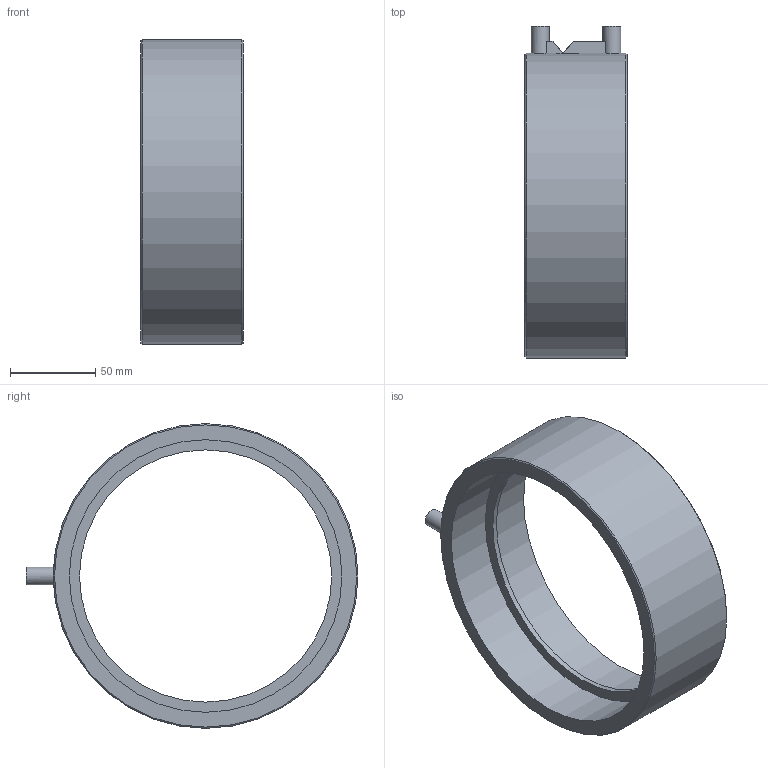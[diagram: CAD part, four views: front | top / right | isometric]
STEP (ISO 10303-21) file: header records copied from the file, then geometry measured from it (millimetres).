
FILE_DESCRIPTION(/* description */ (''),/* implementation_level */ '2;1');
FILE_NAME(/* name */ 'H:\Geberit-Teile\Export\Fertig zum Export\Elektro-Schweissmuffe_Ipart\stp\369771.stp',/* time_stamp */ '2017-07-24T13:33:39+02:00',/* author */ ('seihe2'),/* organization */ (''),/* preprocessor_version */ 'ST-DEVELOPER v15.2',/* originating_system */ 'Autodesk Inventor 2014',/* authorisation */ '');
FILE_SCHEMA (('AUTOMOTIVE_DESIGN { 1 0 10303 214 3 1 1 }'));
Length unit declared in the file: millimetre
Products named in the file (1): 369771
Bounding box: 60 x 194.8 x 178.8 mm (x, y, z)
Volume: 311092.2 mm3; surface area: 83663.2 mm2
Topology: 1 solids, 1 shells, 30 faces, 64 edges, 42 vertices
Faces by surface type: plane 14, cylinder 12, cone 4
Full cylindrical faces by diameter (mm): 7.4 x2, 10.4 x2, 148 x1, 160 x2, 162.4 x2, 178.8 x1
Entity records: 866 total; most frequent: CARTESIAN_POINT 242, DIRECTION 116, ORIENTED_EDGE 90, AXIS2_PLACEMENT_3D 52, EDGE_LOOP 51, EDGE_CURVE 45, VERTEX_POINT 36, STYLED_ITEM 31
